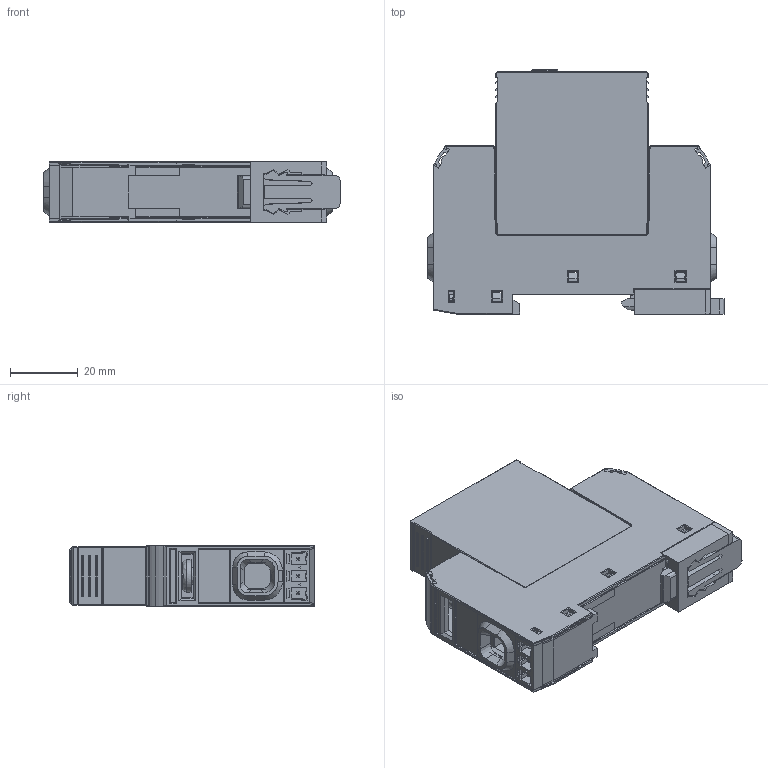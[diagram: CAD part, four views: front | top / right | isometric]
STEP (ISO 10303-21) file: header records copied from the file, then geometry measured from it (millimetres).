
FILE_DESCRIPTION( ( 'Unknown' ), '1' );
FILE_NAME( 'C:/Users/pdellaca/Desktop/S 450V 1+0 --- catalogo4.stp', 'Unknown', ( 'Unknown' ), ( 'Unknown' ), 'PSStep 15.0.49', 'Unknown', ' ' );
FILE_SCHEMA( ( 'AUTOMOTIVE_DESIGN { 1 0 10303 214 1 1 1 1 }' ) );
Length unit declared in the file: millimetre
Products named in the file (1042): top
Bounding box: 87.56 x 72.1 x 17.8 mm (x, y, z)
Surface area: 23976.5 mm2 (no closed solid volume)
Topology: 0 solids, 1042 shells, 1042 faces, 5182 edges, 5147 vertices
Faces by surface type: plane 607, cylinder 330, bspline 105
Full cylindrical faces by diameter (mm): 5 x1, 9.5 x1
Entity records: 80012 total; most frequent: CARTESIAN_POINT 30890, ORIENTED_EDGE 5147, EDGE_CURVE 5147, VERTEX_POINT 5147, B_SPLINE_CURVE_WITH_KNOTS 4837, DIRECTION 3958, AXIS2_PLACEMENT_3D 1979, FACE_BOUND 1081
